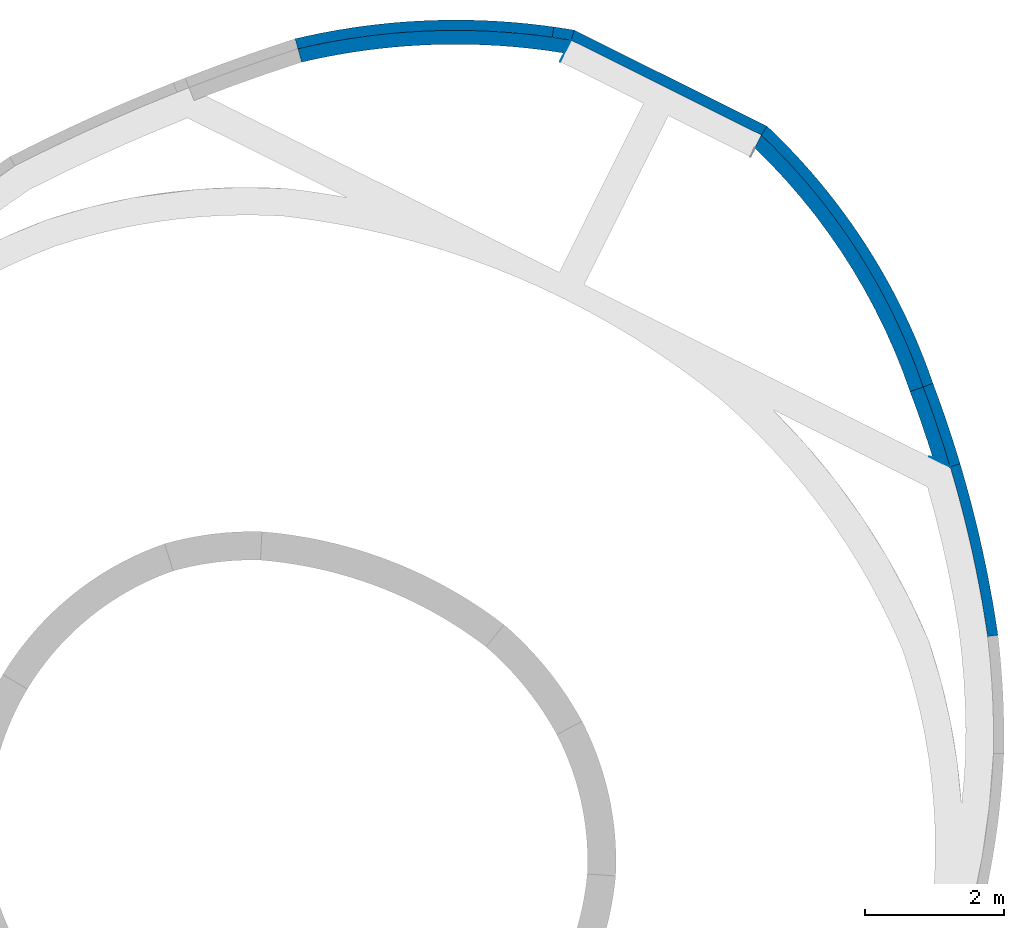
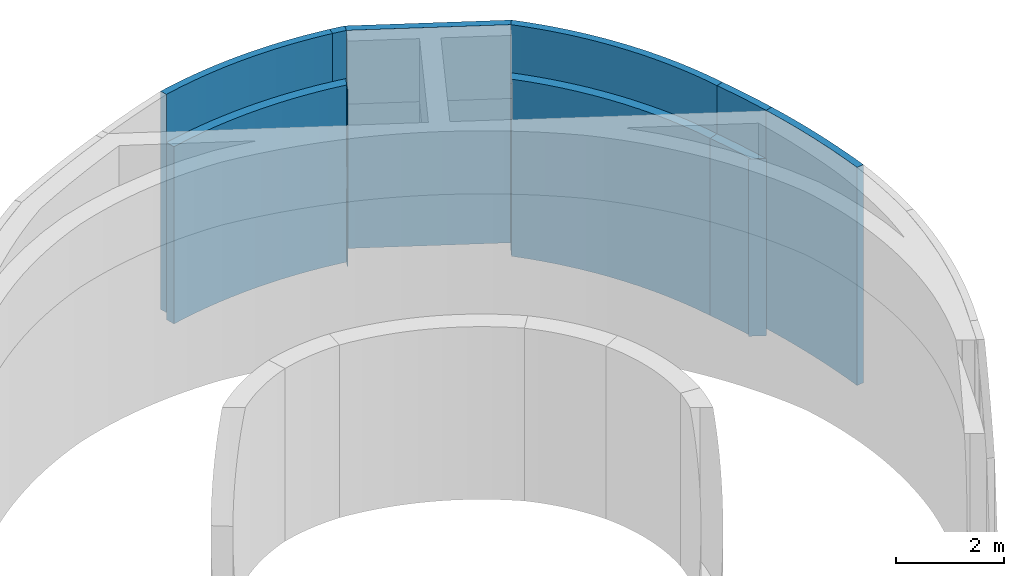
# One storey, part 10 of 47: 11 walls.
"""IFC2X3 building model written with IfcOpenShell, lengths in metres."""

from ifc_helpers import new_model, entity, si_unit, converted_unit, derived_unit, direction, frame, frame_2d, origin, place, context, subcontext, project, spatial, polyline, circle_curve, parameter, trimmed, segment, composite_curve, outline, extrude, material, layer, layer_set, layer_usage, type_object, element, save


model = new_model("IFC2X3")

# Units and contexts
model_context = context("Model", 3, precision=1e-05, world=origin(), true_north=direction((0.894925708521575, 0.446215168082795)))
context_of_model = context(None, 3, precision=1e-05, world=origin(), true_north=direction((0.894925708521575, 0.446215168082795)))
body_context = subcontext(model_context, "Body", "Model", "MODEL_VIEW")
ifc_project = project(units=[si_unit("LENGTHUNIT", "METRE"), si_unit("AREAUNIT", "SQUARE_METRE"), si_unit("VOLUMEUNIT", "CUBIC_METRE"), converted_unit("PLANEANGLEUNIT", "DEGREE", entity("IfcRatioMeasure", 0.0174532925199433), si_unit("PLANEANGLEUNIT", "RADIAN"), dimensions=[0, 0, 0, 0, 0, 0, 0]), si_unit("MASSUNIT", "GRAM", prefix="KILO"), si_unit("TIMEUNIT", "SECOND"), si_unit("FREQUENCYUNIT", "HERTZ"), si_unit("THERMODYNAMICTEMPERATUREUNIT", "DEGREE_CELSIUS"), derived_unit("THERMALTRANSMITTANCEUNIT", [(si_unit("MASSUNIT", "GRAM", prefix="KILO"), 1), (si_unit("THERMODYNAMICTEMPERATUREUNIT", "KELVIN"), -1), (si_unit("TIMEUNIT", "SECOND"), -3)]), derived_unit("VOLUMETRICFLOWRATEUNIT", [(si_unit("LENGTHUNIT", "METRE"), 3), (si_unit("TIMEUNIT", "SECOND"), -1)]), si_unit("ELECTRICCURRENTUNIT", "AMPERE"), si_unit("ELECTRICVOLTAGEUNIT", "VOLT"), si_unit("POWERUNIT", "WATT"), si_unit("FORCEUNIT", "NEWTON", prefix="KILO"), si_unit("ILLUMINANCEUNIT", "LUX"), si_unit("LUMINOUSFLUXUNIT", "LUMEN"), si_unit("LUMINOUSINTENSITYUNIT", "CANDELA"), si_unit("PRESSUREUNIT", "PASCAL")], contexts=[model_context, context_of_model])

# Site, building, storey
site_placement = place(None, frame((218.228324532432, 584.720189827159, 0.0), z_axis=(0.0, 0.0, 1.0), x_axis=(0.446215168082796, 0.894925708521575, 0.0)))
site = spatial("IfcSite", under=ifc_project, at=site_placement, Name="Default", CompositionType="ELEMENT")
building_placement = place(site_placement, origin())
building = spatial("IfcBuilding", under=site, at=building_placement, CompositionType="ELEMENT")
storey_placement = place(building_placement, frame((0.0, 0.0, 4.69)))
storey = spatial("IfcBuildingStorey", under=building, at=storey_placement, Name="1 - Piano Primo", CompositionType="ELEMENT", Elevation=4.69)

# Walls
ifc_material_1 = material(Name="Sabbia e Calcestruzzo")
ifc_layer_1 = layer(ifc_material_1, 0.2)
ifc_layer_set_1 = layer_set([ifc_layer_1], Name="Muro di base:Blocchetti - 20 cm")
ifc_layer_usage_1 = layer_usage(ifc_layer_set_1, "AXIS2", "NEGATIVE", 0.1)
wall_type_1 = type_object("IfcWallType", Name="Muro di base:Blocchetti - 20 cm", PredefinedType="STANDARD", material=ifc_layer_set_1)
wall_1_placement = place(storey_placement, frame((83.2198234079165, -2.03506588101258, -0.16)))
element("IfcWallStandardCase", 1, at=wall_1_placement, inside=storey, type_object=wall_type_1, material=ifc_layer_usage_1, Name="Muro di base:Blocchetti - 20 cm", ObjectType="Muro di base:Blocchetti - 20 cm", context=body_context, shape_type="SweptSolid", body=[
    extrude(outline(composite_curve([segment(trimmed(circle_curve(frame_2d((-9.36355997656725, -2.83596247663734), x_axis=(1.0, 0.0)), 9.68360560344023), [parameter(17.2088525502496)], [parameter(39.75394363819)], True, "PARAMETER"), False, "CONTINUOUS"), segment(polyline([(-0.113463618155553, 0.0289868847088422), (0.0957066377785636, 0.0289868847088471)]), True, "CONTINUOUS"), segment(trimmed(circle_curve(frame_2d((-9.36355997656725, -2.83596247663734), x_axis=(1.0, 0.0)), 9.88360560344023), [parameter(16.8501042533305)], [parameter(39.801039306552)], True, "PARAMETER"), True, "CONTINUOUS"), segment(polyline([(-1.77026339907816, 3.49076707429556), (-1.91882511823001, 3.35662505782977)]), True, "CONTINUOUS")], self_intersect=False)), origin(), (0.0, 0.0, 1.0), 4.02),
])
ifc_layer_usage_2 = layer_usage(ifc_layer_set_1, "AXIS2", "NEGATIVE", 0.1)
wall_2_placement = place(storey_placement, frame((81.0363266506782, -8.71096856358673, -0.16)))
element("IfcWallStandardCase", 2, at=wall_2_placement, inside=storey, type_object=wall_type_1, material=ifc_layer_usage_2, Name="Muro di base:Blocchetti - 20 cm", ObjectType="Muro di base:Blocchetti - 20 cm", context=body_context, shape_type="SweptSolid", body=[
    extrude(outline(composite_curve([segment(polyline([(2.0714468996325, 3.63988956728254), (2.07066685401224, 3.6373888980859)]), True, "CONTINUOUS"), segment(polyline([(2.07066685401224, 3.6373888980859), (2.0698856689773, 3.63488739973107)]), True, "CONTINUOUS"), segment(polyline([(2.0698856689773, 3.63488739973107), (1.96797157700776, 3.32851001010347)]), True, "CONTINUOUS"), segment(polyline([(1.96797157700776, 3.32851001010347), (1.85490581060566, 3.02606735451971)]), True, "CONTINUOUS"), segment(polyline([(1.85490581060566, 3.02606735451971), (1.73084093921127, 2.72796781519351)]), True, "CONTINUOUS"), segment(polyline([(1.73084093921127, 2.72796781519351), (1.59594337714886, 2.43461124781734)]), True, "CONTINUOUS"), segment(polyline([(1.59594337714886, 2.43461124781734), (1.45039406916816, 2.14639114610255)]), True, "CONTINUOUS"), segment(polyline([(1.45039406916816, 2.14639114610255), (1.2943882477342, 1.86369411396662)]), True, "CONTINUOUS"), segment(polyline([(1.2943882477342, 1.86369411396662), (1.12813517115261, 1.58689934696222)]), True, "CONTINUOUS"), segment(polyline([(1.12813517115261, 1.58689934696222), (0.951857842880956, 1.31637812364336)]), True, "CONTINUOUS"), segment(polyline([(0.951857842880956, 1.31637812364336), (0.765792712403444, 1.05249330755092)]), True, "CONTINUOUS"), segment(polyline([(0.765792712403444, 1.05249330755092), (0.570189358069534, 0.795598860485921)]), True, "CONTINUOUS"), segment(polyline([(0.570189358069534, 0.795598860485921), (0.365310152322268, 0.546039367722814)]), True, "CONTINUOUS"), segment(polyline([(0.365310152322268, 0.546039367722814), (0.151429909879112, 0.304149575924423)]), True, "CONTINUOUS"), segment(polyline([(0.151429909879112, 0.304149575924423), (-0.0711644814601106, 0.0702539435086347)]), True, "CONTINUOUS"), segment(polyline([(-0.0711644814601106, 0.0702539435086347), (0.0734213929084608, -0.0679669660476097)]), True, "CONTINUOUS"), segment(trimmed(circle_curve(frame_2d((-6.34512301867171, 6.26393820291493), x_axis=(1.0, 0.0)), 9.01613750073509), [parameter(315.389318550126)], [parameter(343.07982372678)], True, "PARAMETER"), True, "CONTINUOUS"), segment(polyline([(2.28071631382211, 3.63988956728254), (2.0714468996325, 3.63988956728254)]), True, "CONTINUOUS")], self_intersect=False)), origin(), (0.0, 0.0, 1.0), 4.02),
])
ifc_layer_usage_3 = layer_usage(ifc_layer_set_1, "AXIS2", "NEGATIVE", 0.1)
wall_3_placement = place(storey_placement, frame((80.1856736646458, -9.56667332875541, -0.16)))
element("IfcWallStandardCase", 3, at=wall_3_placement, inside=storey, type_object=wall_type_1, material=ifc_layer_usage_3, Name="Muro di base:Blocchetti - 20 cm", ObjectType="Muro di base:Blocchetti - 20 cm", context=body_context, shape_type="SweptSolid", body=[
    extrude(outline(composite_curve([segment(trimmed(circle_curve(frame_2d((-11.6639485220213, 12.4467738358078), x_axis=(1.0, 0.0)), 16.9578390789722), [parameter(313.776948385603)], [parameter(317.20479426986)], True, "PARAMETER"), False, "CONTINUOUS"), segment(polyline([(0.0683788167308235, 0.202558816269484), (0.0683788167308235, -0.0729680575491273)]), True, "CONTINUOUS"), segment(trimmed(circle_curve(frame_2d((-11.6639485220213, 12.4467738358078), x_axis=(1.0, 0.0)), 17.1578390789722), [parameter(313.140377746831)], [parameter(317.194121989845)], True, "PARAMETER"), True, "CONTINUOUS"), segment(polyline([(0.924074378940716, 0.787737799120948), (0.779488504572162, 0.92595870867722)]), True, "CONTINUOUS")], self_intersect=False)), origin(), (0.0, 0.0, 1.0), 4.02),
])
ifc_material_2 = material(Name="Alluminio")
ifc_layer_2 = layer(ifc_material_2, 0.15)
ifc_layer_set_2 = layer_set([ifc_layer_2], Name="Muro di base:Rivestimento 15 cm")
ifc_layer_usage_4 = layer_usage(ifc_layer_set_2, "AXIS2", "POSITIVE", -0.075)
wall_type_2 = type_object("IfcWallType", Name="Muro di base:Rivestimento 15 cm", PredefinedType="STANDARD", material=ifc_layer_set_2)
wall_4_placement = place(storey_placement, frame((81.1647725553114, -8.82989927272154, 0.0)))
element("IfcWallStandardCase", 4, at=wall_4_placement, inside=storey, type_object=wall_type_2, material=ifc_layer_usage_4, Name="Muro di base:Rivestimento 15 cm", ObjectType="Muro di base:Rivestimento 15 cm", context=body_context, shape_type="SweptSolid", body=[
    extrude(outline(composite_curve([segment(polyline([(0.0534220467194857, -0.052693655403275), (-0.0550245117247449, 0.0509637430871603)]), True, "CONTINUOUS"), segment(trimmed(circle_curve(frame_2d((-12.6430474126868, 11.7099997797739), x_axis=(1.0, 0.0)), 17.1578390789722), [parameter(313.140377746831)], [parameter(317.194121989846)], True, "PARAMETER"), False, "CONTINUOUS"), segment(polyline([(-0.910720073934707, -0.809742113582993), (-0.808151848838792, -0.919194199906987)]), True, "CONTINUOUS"), segment(trimmed(circle_curve(frame_2d((-12.6430474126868, 11.7099997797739), x_axis=(1.0, 0.0)), 17.3078390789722), [parameter(313.14037774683)], [parameter(317.1863158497)], True, "PARAMETER"), True, "CONTINUOUS")], self_intersect=False)), origin(), (0.0, 0.0, 1.0), 4.95),
])
ifc_layer_usage_5 = layer_usage(ifc_layer_set_2, "AXIS2", "POSITIVE", -0.075)
wall_5_placement = place(storey_placement, frame((83.3952364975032, -5.07164327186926, 0.0)))
element("IfcWallStandardCase", 5, at=wall_5_placement, inside=storey, type_object=wall_type_2, material=ifc_layer_usage_5, Name="Muro di base:Rivestimento 15 cm", ObjectType="Muro di base:Rivestimento 15 cm", context=body_context, shape_type="SweptSolid", body=[
    extrude(outline(composite_curve([segment(polyline([(0.0718064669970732, -0.0216525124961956), (-0.0781935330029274, 0.000564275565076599)]), True, "CONTINUOUS"), segment(trimmed(circle_curve(frame_2d((-8.70403286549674, 2.62461291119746), x_axis=(1.0, 0.0)), 9.01613750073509), [parameter(315.389318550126)], [parameter(343.07982372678)], True, "PARAMETER"), False, "CONTINUOUS"), segment(polyline([(-2.28548845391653, -3.70729225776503), (-2.17704189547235, -3.81094965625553)]), True, "CONTINUOUS"), segment(trimmed(circle_curve(frame_2d((-8.70403286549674, 2.62461291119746), x_axis=(1.0, 0.0)), 9.16613750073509), [parameter(315.404115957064)], [parameter(343.219847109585)], True, "PARAMETER"), True, "CONTINUOUS")], self_intersect=False)), origin(), (0.0, 0.0, 1.0), 4.95),
])
ifc_layer_usage_6 = layer_usage(ifc_layer_set_2, "AXIS2", "NEGATIVE", 0.075)
wall_6_placement = place(storey_placement, frame((83.3920429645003, -1.98898773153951, 0.0), z_axis=(0.0, 0.0, 1.0), x_axis=(0.0, -1.0, 0.0)))
element("IfcWallStandardCase", 6, at=wall_6_placement, inside=storey, type_object=wall_type_2, material=ifc_layer_usage_6, Name="Muro di base:Rivestimento 15 cm", ObjectType="Muro di base:Rivestimento 15 cm", context=body_context, shape_type="SweptSolid", body=[
    extrude(outline(polyline([(3.08209126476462, -0.0750000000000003), (3.10430805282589, 0.0750000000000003), (0.0, 0.0750000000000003), (0.0220912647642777, -0.0750000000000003), (3.08209126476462, -0.0750000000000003)])), origin(), (0.0, 0.0, 1.0), 4.95),
])
ifc_layer_usage_7 = layer_usage(ifc_layer_set_2, "AXIS2", "POSITIVE", -0.075)
wall_7_placement = place(storey_placement, frame((81.5033646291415, 1.508287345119, 0.0)))
element("IfcWallStandardCase", 7, at=wall_7_placement, inside=storey, type_object=wall_type_2, material=ifc_layer_usage_7, Name="Muro di base:Rivestimento 15 cm", ObjectType="Muro di base:Rivestimento 15 cm", context=body_context, shape_type="SweptSolid", body=[
    extrude(outline(composite_curve([segment(trimmed(circle_curve(frame_2d((-7.64710119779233, -6.37931570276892), x_axis=(1.0, 0.0)), 10.0336056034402), [parameter(18.4064816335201)], [parameter(39.8353229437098)], True, "PARAMETER"), True, "CONTINUOUS"), segment(polyline([(0.0575916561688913, 0.0480437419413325), (-0.053804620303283, -0.0525861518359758)]), True, "CONTINUOUS"), segment(trimmed(circle_curve(frame_2d((-7.64710119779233, -6.37931570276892), x_axis=(1.0, 0.0)), 9.88360560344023), [parameter(18.4064816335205)], [parameter(39.8010393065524)], True, "PARAMETER"), False, "CONTINUOUS"), segment(polyline([(1.73086208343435, -3.25850420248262), (1.87318812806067, -3.2111407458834)]), True, "CONTINUOUS")], self_intersect=False)), origin(), (0.0, 0.0, 1.0), 4.95),
])
ifc_layer_usage_8 = layer_usage(ifc_layer_set_2, "AXIS2", "POSITIVE", -0.075)
wall_8_placement = place(storey_placement, frame((83.305389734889, -1.72653512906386, 0.0)))
element("IfcWallStandardCase", 8, at=wall_8_placement, inside=storey, type_object=wall_type_2, material=ifc_layer_usage_8, Name="Muro di base:Rivestimento 15 cm", ObjectType="Muro di base:Rivestimento 15 cm", context=body_context, shape_type="SweptSolid", body=[
    extrude(outline(composite_curve([segment(polyline([(0.0711630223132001, 0.0236817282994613), (-0.0711630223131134, -0.0236817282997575)]), True, "CONTINUOUS"), segment(trimmed(circle_curve(frame_2d((-9.4491263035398, -3.14449322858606), x_axis=(1.0, 0.0)), 9.88360560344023), [parameter(16.8501042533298)], [parameter(18.4064816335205)], True, "PARAMETER"), False, "CONTINUOUS"), segment(trimmed(circle_curve(frame_2d((-9.4491263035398, -3.14449322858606), x_axis=(1.0, 0.0)), 9.88360560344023), [parameter(16.8198211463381)], [parameter(16.8501042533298)], True, "PARAMETER"), False, "CONTINUOUS"), segment(polyline([(0.0116532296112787, -0.284543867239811), (0.161653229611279, -0.262452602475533)]), True, "CONTINUOUS"), segment(trimmed(circle_curve(frame_2d((-9.4491263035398, -3.14449322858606), x_axis=(1.0, 0.0)), 10.0336056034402), [parameter(16.6927177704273)], [parameter(18.4064816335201)], True, "PARAMETER"), True, "CONTINUOUS")], self_intersect=False)), origin(), (0.0, 0.0, 1.0), 4.95),
])
ifc_layer_usage_9 = layer_usage(ifc_layer_set_2, "AXIS2", "POSITIVE", -0.075)
wall_9_placement = place(storey_placement, frame((80.3053365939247, -9.6943674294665, 0.0)))
element("IfcWallStandardCase", 9, at=wall_9_placement, inside=storey, type_object=wall_type_2, material=ifc_layer_usage_9, Name="Muro di base:Rivestimento 15 cm", ObjectType="Muro di base:Rivestimento 15 cm", context=body_context, shape_type="SweptSolid", body=[
    extrude(outline(composite_curve([segment(trimmed(circle_curve(frame_2d((-11.7836114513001, 12.5744679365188), x_axis=(1.0, 0.0)), 17.3078390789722), [parameter(304.763123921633)], [parameter(313.14037774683)], True, "PARAMETER"), True, "CONTINUOUS"), segment(polyline([(0.0512841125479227, -0.0547260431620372), (-0.051284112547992, 0.054726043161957)]), True, "CONTINUOUS"), segment(trimmed(circle_curve(frame_2d((-11.7836114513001, 12.5744679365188), x_axis=(1.0, 0.0)), 17.1578390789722), [parameter(304.769535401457)], [parameter(313.140377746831)], True, "PARAMETER"), False, "CONTINUOUS"), segment(polyline([(-1.99889258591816, -1.51988265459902), (-1.91494208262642, -1.64420494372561)]), True, "CONTINUOUS")], self_intersect=False)), origin(), (0.0, 0.0, 1.0), 4.95),
])
ifc_layer_3 = layer(ifc_material_1, 0.005)
ifc_layer_set_3 = layer_set([ifc_layer_3], Name="Muro di base:Malta di raccordo")
ifc_layer_usage_10 = layer_usage(ifc_layer_set_3, "AXIS2", "NEGATIVE", 0.0025)
wall_type_3 = type_object("IfcWallType", Name="Muro di base:Malta di raccordo", PredefinedType="STANDARD", material=ifc_layer_set_3)
wall_10_placement = place(storey_placement, frame((80.2515524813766, -9.30955738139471, -0.16), z_axis=(0.0, 0.0, 1.0), x_axis=(0.0, -1.0, 0.0)))
element("IfcWallStandardCase", 10, at=wall_10_placement, inside=storey, type_object=wall_type_3, material=ifc_layer_usage_10, Name="Muro di base:Malta di raccordo", ObjectType="Muro di base:Malta di raccordo", context=body_context, shape_type="SweptSolid", body=[
    extrude(outline(composite_curve([segment(trimmed(circle_curve(frame_2d((-12.1896578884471, -11.7298273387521), x_axis=(0.0, 1.0)), 17.1578390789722), [parameter(313.117499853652)], [parameter(313.140377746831)], True, "PARAMETER"), True, "CONTINUOUS"), segment(polyline([(0.330084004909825, 0.00250000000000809), (0.0545571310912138, 0.00250000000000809)]), True, "CONTINUOUS"), segment(polyline([(0.0545571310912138, 0.00250000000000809), (0.0, 0.00250000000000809)]), True, "CONTINUOUS"), segment(polyline([(0.0, 0.00250000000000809), (0.0, -0.00249999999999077)]), True, "CONTINUOUS"), segment(polyline([(0.0, -0.00249999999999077), (0.334767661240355, -0.00249999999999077)]), True, "CONTINUOUS")], self_intersect=False)), origin(), (0.0, 0.0, 1.0), 4.02),
])
ifc_layer_usage_11 = layer_usage(ifc_layer_set_3, "AXIS2", "NEGATIVE", 0.0025)
wall_11_placement = place(storey_placement, frame((82.9690524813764, -2.00857899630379, -0.16)))
element("IfcWallStandardCase", 11, at=wall_11_placement, inside=storey, type_object=wall_type_3, material=ifc_layer_usage_11, Name="Muro di base:Malta di raccordo", ObjectType="Muro di base:Malta di raccordo", context=body_context, shape_type="SweptSolid", body=[
    extrude(outline(composite_curve([segment(trimmed(circle_curve(frame_2d((-9.11278905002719, -2.86244936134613), x_axis=(1.0, 0.0)), 9.88360560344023), [parameter(16.8198211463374)], [parameter(16.8501042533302)], True, "PARAMETER"), True, "CONTINUOUS"), segment(polyline([(0.346477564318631, 0.00249999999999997), (0.137307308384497, 0.00249999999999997)]), True, "CONTINUOUS"), segment(polyline([(0.137307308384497, 0.00249999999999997), (0.0, 0.00249999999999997)]), True, "CONTINUOUS"), segment(polyline([(0.0, 0.00249999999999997), (0.0, -0.00249999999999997)]), True, "CONTINUOUS"), segment(polyline([(0.0, -0.00249999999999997), (0.347990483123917, -0.00249999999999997)]), True, "CONTINUOUS")], self_intersect=False)), origin(), (0.0, 0.0, 1.0), 4.02),
])

save(model, "model.ifc")
